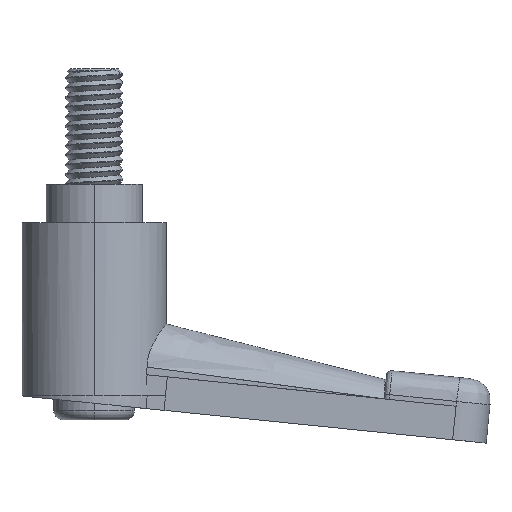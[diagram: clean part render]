
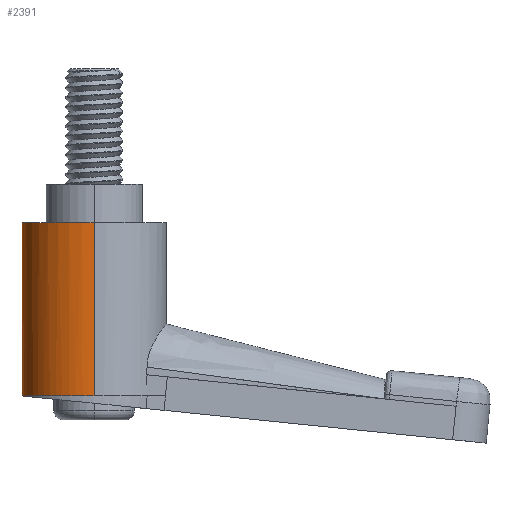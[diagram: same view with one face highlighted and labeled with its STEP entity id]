
A CAD part, left-side view. The second image highlights one B-rep face of the part: STEP entity #2391.
In plain terms, the highlighted cylindrical face has radius 7.5 mm (diameter 15 mm), a partial arc.
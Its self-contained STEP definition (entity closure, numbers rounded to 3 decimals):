
#138 = CARTESIAN_POINT ( 'NONE',  ( 0., 0., -4. ) ) ;
#151 = EDGE_CURVE ( 'NONE', #2315, #1441, #1190, .T. ) ;
#162 = B_SPLINE_CURVE_WITH_KNOTS ( 'NONE', 3,
 ( #3840, #6260, #4335, #1406, #4822, #1914, #5300, #2407, #5803, #2892, #6280, #3373 ),
 .UNSPECIFIED., .F., .F.,
 ( 4, 2, 2, 2, 2, 4 ),
 ( 0.006, 0.007, 0.009, 0.011, 0.014, 0.016 ),
 .UNSPECIFIED. ) ;
#350 = VECTOR ( 'NONE', #1697, 1000. ) ;
#414 = AXIS2_PLACEMENT_3D ( 'NONE', #960, #2435, #5357 ) ;
#459 = EDGE_LOOP ( 'NONE', ( #6164, #5707, #2894, #2831, #3265, #5852 ) ) ;
#515 = CARTESIAN_POINT ( 'NONE',  ( -3.274, 6.8, -22. ) ) ;
#587 = VECTOR ( 'NONE', #2280, 1000. ) ;
#628 = DIRECTION ( 'NONE',  ( -1., 0., 0. ) ) ;
#634 = CARTESIAN_POINT ( 'NONE',  ( 0., 0., -22. ) ) ;
#960 = CARTESIAN_POINT ( 'NONE',  ( 0., 0., -22. ) ) ;
#1001 = CARTESIAN_POINT ( 'NONE',  ( -5.337, 5.337, -22. ) ) ;
#1109 = DIRECTION ( 'NONE',  ( -1., 0., 0. ) ) ;
#1190 = LINE ( 'NONE', #4695, #587 ) ;
#1320 = CARTESIAN_POINT ( 'NONE',  ( -1.665, 7.313, -22. ) ) ;
#1406 = CARTESIAN_POINT ( 'NONE',  ( 7.325, 1.665, -22. ) ) ;
#1441 = VERTEX_POINT ( 'NONE', #3074 ) ;
#1471 = CARTESIAN_POINT ( 'NONE',  ( -6.8, 3.274, -22. ) ) ;
#1480 = FACE_OUTER_BOUND ( 'NONE', #459, .T. ) ;
#1481 = B_SPLINE_CURVE_WITH_KNOTS ( 'NONE', 3,
 ( #5850, #2455, #515, #3910, #1001, #4411, #1471, #4894, #1984, #5377 ),
 .UNSPECIFIED., .F., .F.,
 ( 4, 2, 2, 2, 4 ),
 ( 0., 0.003, 0.005, 0.008, 0.01 ),
 .UNSPECIFIED. ) ;
#1673 = VERTEX_POINT ( 'NONE', #1320 ) ;
#1697 = DIRECTION ( 'NONE',  ( 0., 0., 1. ) ) ;
#1746 = CIRCLE ( 'NONE', #2727, 7.5 ) ;
#1910 = EDGE_CURVE ( 'NONE', #4936, #1441, #1746, .T. ) ;
#1914 = CARTESIAN_POINT ( 'NONE',  ( 6.801, 3.272, -22. ) ) ;
#1984 = CARTESIAN_POINT ( 'NONE',  ( -7.5, 0.843, -22. ) ) ;
#2076 = VERTEX_POINT ( 'NONE', #3143 ) ;
#2280 = DIRECTION ( 'NONE',  ( 0., 0., 1. ) ) ;
#2315 = VERTEX_POINT ( 'NONE', #4354 ) ;
#2391 = ADVANCED_FACE ( 'NONE', ( #1480 ), #6052, .T. ) ;
#2392 = EDGE_CURVE ( 'NONE', #1673, #5906, #1481, .T. ) ;
#2407 = CARTESIAN_POINT ( 'NONE',  ( 5.333, 5.34, -22. ) ) ;
#2435 = DIRECTION ( 'NONE',  ( 0., 0., 1. ) ) ;
#2455 = CARTESIAN_POINT ( 'NONE',  ( -2.488, 7.125, -22. ) ) ;
#2727 = AXIS2_PLACEMENT_3D ( 'NONE', #138, #3528, #628 ) ;
#2831 = ORIENTED_EDGE ( 'NONE', *, *, #151, .F. ) ;
#2892 = CARTESIAN_POINT ( 'NONE',  ( 3.263, 6.806, -22. ) ) ;
#2894 = ORIENTED_EDGE ( 'NONE', *, *, #1910, .T. ) ;
#3074 = CARTESIAN_POINT ( 'NONE',  ( 7.5, 0., -4. ) ) ;
#3128 = CARTESIAN_POINT ( 'NONE',  ( -7.5, 0., -4. ) ) ;
#3143 = CARTESIAN_POINT ( 'NONE',  ( 1.665, 7.313, -22. ) ) ;
#3265 = ORIENTED_EDGE ( 'NONE', *, *, #4032, .T. ) ;
#3373 = CARTESIAN_POINT ( 'NONE',  ( 1.665, 7.313, -22. ) ) ;
#3528 = DIRECTION ( 'NONE',  ( 0., 0., -1. ) ) ;
#3678 = CIRCLE ( 'NONE', #4710, 7.5 ) ;
#3748 = CARTESIAN_POINT ( 'NONE',  ( -7.5, 0., -22. ) ) ;
#3840 = CARTESIAN_POINT ( 'NONE',  ( 7.5, 0., -22. ) ) ;
#3910 = CARTESIAN_POINT ( 'NONE',  ( -4.702, 5.903, -22. ) ) ;
#3967 = EDGE_CURVE ( 'NONE', #5906, #4936, #4042, .T. ) ;
#4029 = DIRECTION ( 'NONE',  ( 0., 0., -1. ) ) ;
#4032 = EDGE_CURVE ( 'NONE', #2315, #2076, #162, .T. ) ;
#4042 = LINE ( 'NONE', #4612, #350 ) ;
#4335 = CARTESIAN_POINT ( 'NONE',  ( 7.465, 0.834, -22. ) ) ;
#4354 = CARTESIAN_POINT ( 'NONE',  ( 7.5, 0., -22. ) ) ;
#4411 = CARTESIAN_POINT ( 'NONE',  ( -6.388, 4.018, -22. ) ) ;
#4612 = CARTESIAN_POINT ( 'NONE',  ( -7.5, 0., -22. ) ) ;
#4695 = CARTESIAN_POINT ( 'NONE',  ( 7.5, 0., -22. ) ) ;
#4710 = AXIS2_PLACEMENT_3D ( 'NONE', #634, #4029, #1109 ) ;
#4809 = EDGE_CURVE ( 'NONE', #1673, #2076, #3678, .T. ) ;
#4822 = CARTESIAN_POINT ( 'NONE',  ( 7.22, 2.075, -22. ) ) ;
#4894 = CARTESIAN_POINT ( 'NONE',  ( -7.357, 1.682, -22. ) ) ;
#4936 = VERTEX_POINT ( 'NONE', #3128 ) ;
#5300 = CARTESIAN_POINT ( 'NONE',  ( 6.388, 4.019, -22. ) ) ;
#5357 = DIRECTION ( 'NONE',  ( 1., 0., 0. ) ) ;
#5377 = CARTESIAN_POINT ( 'NONE',  ( -7.5, 0., -22. ) ) ;
#5707 = ORIENTED_EDGE ( 'NONE', *, *, #3967, .T. ) ;
#5803 = CARTESIAN_POINT ( 'NONE',  ( 4.696, 5.908, -22. ) ) ;
#5850 = CARTESIAN_POINT ( 'NONE',  ( -1.665, 7.313, -22. ) ) ;
#5852 = ORIENTED_EDGE ( 'NONE', *, *, #4809, .F. ) ;
#5906 = VERTEX_POINT ( 'NONE', #3748 ) ;
#6052 = CYLINDRICAL_SURFACE ( 'NONE', #414, 7.5 ) ;
#6164 = ORIENTED_EDGE ( 'NONE', *, *, #2392, .T. ) ;
#6260 = CARTESIAN_POINT ( 'NONE',  ( 7.5, 0.417, -22. ) ) ;
#6280 = CARTESIAN_POINT ( 'NONE',  ( 2.49, 7.125, -22. ) ) ;
